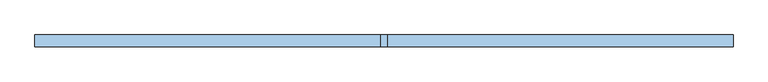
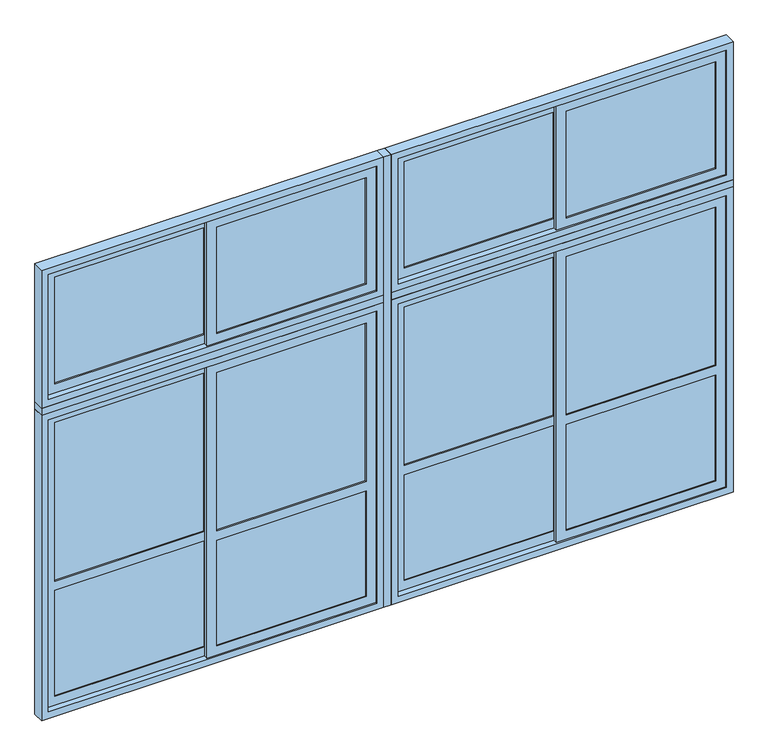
"""IFC4 building model written with IfcOpenShell, lengths in millimetres: window geometry, A11 Ventana_Corrediza_PC_4 hojas : A11.3 Ventana_Corrediza_PC_4 hojas 450x310 2."""

from ifc_helpers import new_model, si_unit, frame, origin, origin_with_axes, place, context, project, spatial, polyline, outline, extrude, source, transform, mapped, element, save


def window_7abe9f8d(model_context):
    return source(origin(), model_context, "Body", "SweptSolid", [
        extrude(outline(polyline([(-1169.0, -28.0), (-1169.0, -44.0), (-2142.0, -44.0), (-2142.0, -28.0), (-1169.0, -28.0)])), frame((0.0, 0.0, 108.0), z_axis=(0.0, 0.0, 1.0), x_axis=(1.0, 0.0, 0.0)), (0.0, 0.0, 1.0), 728.0),
        extrude(outline(polyline([(-133.0, -56.0), (-133.0, -72.0), (-1106.0, -72.0), (-1106.0, -56.0), (-133.0, -56.0)])), frame((0.0, 0.0, 108.0), z_axis=(0.0, 0.0, 1.0), x_axis=(1.0, 0.0, 0.0)), (0.0, 0.0, 1.0), 728.0),
        extrude(outline(polyline([(-1169.0, -31.5769719), (-1169.0, -40.4230281), (-2142.0, -40.4230281), (-2142.0, -31.5769719), (-1169.0, -31.5769719)])), frame((0.0, 0.0, 2258.0), z_axis=(0.0, 0.0, 1.0), x_axis=(1.0, 0.0, 0.0)), (0.0, 0.0, 1.0), 734.0),
        extrude(outline(polyline([(-1169.0, -31.5769719), (-1169.0, -40.4230281), (-2142.0, -40.4230281), (-2142.0, -31.5769719), (-1169.0, -31.5769719)])), frame((0.0, 0.0, 900.0), z_axis=(0.0, 0.0, 1.0), x_axis=(1.0, 0.0, 0.0)), (0.0, 0.0, 1.0), 1092.0),
        extrude(outline(polyline([(-133.0, -59.5769719), (-133.0, -68.4230281), (-1106.0, -68.4230281), (-1106.0, -59.5769719), (-133.0, -59.5769719)])), frame((0.0, 0.0, 2258.0), z_axis=(0.0, 0.0, 1.0), x_axis=(1.0, 0.0, 0.0)), (0.0, 0.0, 1.0), 734.0),
        extrude(outline(polyline([(-133.0, -59.5769719), (-133.0, -68.4230281), (-1106.0, -68.4230281), (-1106.0, -59.5769719), (-133.0, -59.5769719)])), frame((0.0, 0.0, 900.0), z_axis=(0.0, 0.0, 1.0), x_axis=(1.0, 0.0, 0.0)), (0.0, 0.0, 1.0), 1092.0),
        extrude(outline(polyline([(3055.0, -2205.0), (2195.0, -2205.0), (2195.0, -1106.0), (3055.0, -1106.0), (3055.0, -2205.0)]), holes=[polyline([(2992.0, -2142.0), (2992.0, -1169.0), (2258.0, -1169.0), (2258.0, -2142.0), (2992.0, -2142.0)])]), frame((0.0, -50.0, 0.0), z_axis=(0.0, 1.0, 0.0), x_axis=(0.0, 0.0, 1.0)), (0.0, 0.0, 1.0), 28.0),
        extrude(outline(polyline([(2055.0, -2205.0), (45.0, -2205.0), (45.0, -1106.0), (2055.0, -1106.0), (2055.0, -2205.0)]), holes=[polyline([(1992.0, -2142.0), (1992.0, -1169.0), (900.0, -1169.0), (900.0, -2142.0), (1992.0, -2142.0)]), polyline([(836.0, -2142.0), (836.0, -1169.0), (108.0, -1169.0), (108.0, -2142.0), (836.0, -2142.0)])]), frame((0.0, -50.0, 0.0), z_axis=(0.0, 1.0, 0.0), x_axis=(0.0, 0.0, 1.0)), (0.0, 0.0, 1.0), 28.0),
        extrude(outline(polyline([(3055.0, -1169.0), (2195.0, -1169.0), (2195.0, -70.0), (3055.0, -70.0), (3055.0, -1169.0)]), holes=[polyline([(2992.0, -1106.0), (2992.0, -133.0), (2258.0, -133.0), (2258.0, -1106.0), (2992.0, -1106.0)])]), frame((0.0, -78.0, 0.0), z_axis=(0.0, 1.0, 0.0), x_axis=(0.0, 0.0, 1.0)), (0.0, 0.0, 1.0), 28.0),
        extrude(outline(polyline([(2055.0, -1169.0), (45.0, -1169.0), (45.0, -70.0), (2055.0, -70.0), (2055.0, -1169.0)]), holes=[polyline([(1992.0, -1106.0), (1992.0, -133.0), (900.0, -133.0), (900.0, -1106.0), (1992.0, -1106.0)]), polyline([(836.0, -1106.0), (836.0, -133.0), (108.0, -133.0), (108.0, -1106.0), (836.0, -1106.0)])]), frame((0.0, -78.0, 0.0), z_axis=(0.0, 1.0, 0.0), x_axis=(0.0, 0.0, 1.0)), (0.0, 0.0, 1.0), 28.0),
        extrude(outline(polyline([(1106.0, -28.0), (1106.0, -44.0), (133.0, -44.0), (133.0, -28.0), (1106.0, -28.0)])), frame((0.0, 0.0, 108.0), z_axis=(0.0, 0.0, 1.0), x_axis=(1.0, 0.0, 0.0)), (0.0, 0.0, 1.0), 728.0),
        extrude(outline(polyline([(2142.0, -56.0), (2142.0, -72.0), (1169.0, -72.0), (1169.0, -56.0), (2142.0, -56.0)])), frame((0.0, 0.0, 108.0), z_axis=(0.0, 0.0, 1.0), x_axis=(1.0, 0.0, 0.0)), (0.0, 0.0, 1.0), 728.0),
        extrude(outline(polyline([(1106.0, -31.5769719), (1106.0, -40.4230281), (133.0, -40.4230281), (133.0, -31.5769719), (1106.0, -31.5769719)])), frame((0.0, 0.0, 2258.0), z_axis=(0.0, 0.0, 1.0), x_axis=(1.0, 0.0, 0.0)), (0.0, 0.0, 1.0), 734.0),
        extrude(outline(polyline([(1106.0, -31.5769719), (1106.0, -40.4230281), (133.0, -40.4230281), (133.0, -31.5769719), (1106.0, -31.5769719)])), frame((0.0, 0.0, 900.0), z_axis=(0.0, 0.0, 1.0), x_axis=(1.0, 0.0, 0.0)), (0.0, 0.0, 1.0), 1092.0),
        extrude(outline(polyline([(2142.0, -59.5769719), (2142.0, -68.4230281), (1169.0, -68.4230281), (1169.0, -59.5769719), (2142.0, -59.5769719)])), frame((0.0, 0.0, 2258.0), z_axis=(0.0, 0.0, 1.0), x_axis=(1.0, 0.0, 0.0)), (0.0, 0.0, 1.0), 734.0),
        extrude(outline(polyline([(2142.0, -59.5769719), (2142.0, -68.4230281), (1169.0, -68.4230281), (1169.0, -59.5769719), (2142.0, -59.5769719)])), frame((0.0, 0.0, 900.0), z_axis=(0.0, 0.0, 1.0), x_axis=(1.0, 0.0, 0.0)), (0.0, 0.0, 1.0), 1092.0),
        extrude(outline(polyline([(45.0, 70.0), (45.0, 1169.0), (2055.0, 1169.0), (2055.0, 70.0), (45.0, 70.0)]), holes=[polyline([(900.0, 133.0), (1992.0, 133.0), (1992.0, 1106.0), (900.0, 1106.0), (900.0, 133.0)]), polyline([(108.0, 133.0), (836.0, 133.0), (836.0, 1106.0), (108.0, 1106.0), (108.0, 133.0)])]), frame((0.0, -50.0, 0.0), z_axis=(0.0, 1.0, 0.0), x_axis=(0.0, 0.0, 1.0)), (0.0, 0.0, 1.0), 28.0),
        extrude(outline(polyline([(3055.0, 70.0), (2195.0, 70.0), (2195.0, 1169.0), (3055.0, 1169.0), (3055.0, 70.0)]), holes=[polyline([(2258.0, 133.0), (2992.0, 133.0), (2992.0, 1106.0), (2258.0, 1106.0), (2258.0, 133.0)])]), frame((0.0, -50.0, 0.0), z_axis=(0.0, 1.0, 0.0), x_axis=(0.0, 0.0, 1.0)), (0.0, 0.0, 1.0), 28.0),
        extrude(outline(polyline([(2055.0, 2205.0), (2055.0, 1106.0), (45.0, 1106.0), (45.0, 2205.0), (2055.0, 2205.0)]), holes=[polyline([(1992.0, 1169.0), (1992.0, 2142.0), (900.0, 2142.0), (900.0, 1169.0), (1992.0, 1169.0)]), polyline([(836.0, 1169.0), (836.0, 2142.0), (108.0, 2142.0), (108.0, 1169.0), (836.0, 1169.0)])]), frame((0.0, -78.0, 0.0), z_axis=(0.0, 1.0, 0.0), x_axis=(0.0, 0.0, 1.0)), (0.0, 0.0, 1.0), 28.0),
        extrude(outline(polyline([(2195.0, 1106.0), (2195.0, 2205.0), (3055.0, 2205.0), (3055.0, 1106.0), (2195.0, 1106.0)]), holes=[polyline([(2992.0, 1169.0), (2992.0, 2142.0), (2258.0, 2142.0), (2258.0, 1169.0), (2992.0, 1169.0)])]), frame((0.0, -78.0, 0.0), z_axis=(0.0, 1.0, 0.0), x_axis=(0.0, 0.0, 1.0)), (0.0, 0.0, 1.0), 28.0),
        extrude(outline(polyline([(2100.0, 25.0), (0.0, 25.0), (0.0, 2250.0), (2100.0, 2250.0), (2100.0, 25.0)]), holes=[polyline([(2055.0, 70.0), (2055.0, 2205.0), (45.0, 2205.0), (45.0, 70.0), (2055.0, 70.0)])]), frame((0.0, -87.5, 0.0), z_axis=(0.0, 1.0, 0.0), x_axis=(0.0, 0.0, 1.0)), (0.0, 0.0, 1.0), 75.0),
        extrude(outline(polyline([(2100.0, -2250.0), (0.0, -2250.0), (0.0, -25.0), (2100.0, -25.0), (2100.0, -2250.0)]), holes=[polyline([(2055.0, -2205.0), (2055.0, -70.0), (45.0, -70.0), (45.0, -2205.0), (2055.0, -2205.0)])]), frame((0.0, -87.5, 0.0), z_axis=(0.0, 1.0, 0.0), x_axis=(0.0, 0.0, 1.0)), (0.0, 0.0, 1.0), 75.0),
        extrude(outline(polyline([(3100.0, 25.0), (2150.0, 25.0), (2150.0, 2250.0), (3100.0, 2250.0), (3100.0, 25.0)]), holes=[polyline([(3055.0, 70.0), (3055.0, 2205.0), (2195.0, 2205.0), (2195.0, 70.0), (3055.0, 70.0)])]), frame((0.0, -87.5, 0.0), z_axis=(0.0, 1.0, 0.0), x_axis=(0.0, 0.0, 1.0)), (0.0, 0.0, 1.0), 75.0),
        extrude(outline(polyline([(2150.0, -2250.0), (2150.0, -25.0), (3100.0, -25.0), (3100.0, -2250.0), (2150.0, -2250.0)]), holes=[polyline([(3055.0, -2205.0), (3055.0, -70.0), (2195.0, -70.0), (2195.0, -2205.0), (3055.0, -2205.0)])]), frame((0.0, -87.5, 0.0), z_axis=(0.0, 1.0, 0.0), x_axis=(0.0, 0.0, 1.0)), (0.0, 0.0, 1.0), 75.0),
        extrude(outline(polyline([(2250.0, -12.5), (2250.0, -87.5), (25.0, -87.5), (25.0, -12.5), (2250.0, -12.5)])), frame((0.0, 0.0, 2100.0), z_axis=(0.0, 0.0, 1.0), x_axis=(1.0, 0.0, 0.0)), (0.0, 0.0, 1.0), 50.0),
        extrude(outline(polyline([(-25.0, -12.5), (-25.0, -87.5), (-2250.0, -87.5), (-2250.0, -12.5), (-25.0, -12.5)])), frame((0.0, 0.0, 2100.0), z_axis=(0.0, 0.0, 1.0), x_axis=(1.0, 0.0, 0.0)), (0.0, 0.0, 1.0), 50.0),
        extrude(outline(polyline([(25.0, -12.5), (25.0, -87.5), (-25.0, -87.5), (-25.0, -12.5), (25.0, -12.5)])), origin_with_axes(), (0.0, 0.0, 1.0), 3100.0),
    ])


if __name__ == "__main__":
    model = new_model("IFC4")
    model_context = context("Model", 3, world=origin())
    ifc_project = project(units=[si_unit("LENGTHUNIT", "METRE", prefix="MILLI")], contexts=[model_context])
    site = spatial("IfcSite", under=ifc_project)
    building = spatial("IfcBuilding", under=site)
    placement = place(None, origin())
    window_shape = window_7abe9f8d(model_context)
    element("IfcWindow", 1, ObjectType="A11 Ventana_Corrediza_PC_4 hojas : A11.3 Ventana_Corrediza_PC_4 hojas 450x310 2", at=placement, inside=building, context=model_context, shape_type="MappedRepresentation", body=[
        mapped(window_shape, transform((0.0, 0.0, 0.0), x_axis=(1.0, 0.0, 0.0), y_axis=(0.0, 1.0, 0.0), z_axis=(0.0, 0.0, 1.0))),
    ])
    save(model, "model.ifc")
